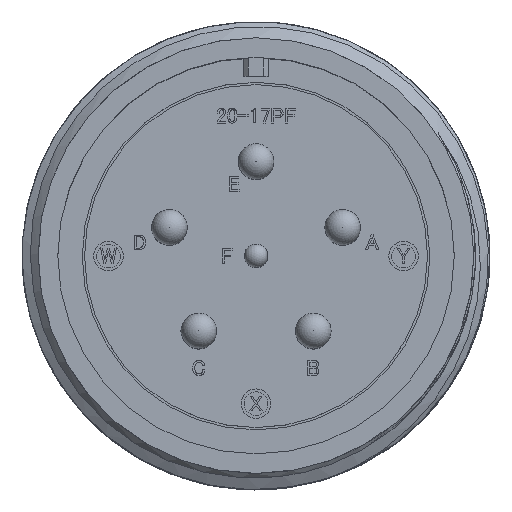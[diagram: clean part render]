
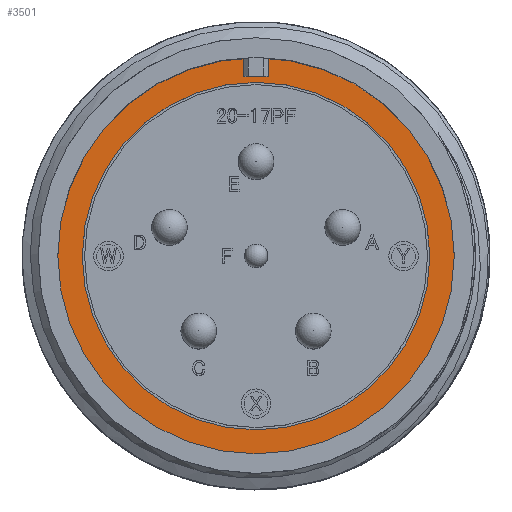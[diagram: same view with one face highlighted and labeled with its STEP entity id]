
A CAD part, top view. The second image highlights one B-rep face of the part: STEP entity #3501.
In plain terms, the highlighted planar face has unit normal (0, 0, 1).
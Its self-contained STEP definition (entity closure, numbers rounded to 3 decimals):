
#800 = VERTEX_POINT ( 'NONE', #18189 ) ;
#1625 = DIRECTION ( 'NONE',  ( 1., 0., 0. ) ) ;
#1786 = DIRECTION ( 'NONE',  ( 0., 0., 1. ) ) ;
#2285 = EDGE_LOOP ( 'NONE', ( #16158 ) ) ;
#3501 = ADVANCED_FACE ( 'NONE', ( #24933, #19535 ), #15216, .T. ) ;
#4701 = DIRECTION ( 'NONE',  ( 0., 0., 1. ) ) ;
#5604 = CARTESIAN_POINT ( 'NONE',  ( 0., 11.775, -19.18 ) ) ;
#6045 = AXIS2_PLACEMENT_3D ( 'NONE', #5604, #1786, #1625 ) ;
#8807 = DIRECTION ( 'NONE',  ( 0., 0., 1. ) ) ;
#8896 = DIRECTION ( 'NONE',  ( 1., 0., 0. ) ) ;
#9480 = EDGE_CURVE ( 'NONE', #800, #800, #22244, .T. ) ;
#13617 = AXIS2_PLACEMENT_3D ( 'NONE', #20299, #8807, #8896 ) ;
#14146 = EDGE_CURVE ( 'NONE', #20653, #20653, #18784, .T. ) ;
#15216 = PLANE ( 'NONE',  #6045 ) ;
#16158 = ORIENTED_EDGE ( 'NONE', *, *, #9480, .T. ) ;
#16170 = DIRECTION ( 'NONE',  ( 1., 0., 0. ) ) ;
#16777 = ORIENTED_EDGE ( 'NONE', *, *, #14146, .F. ) ;
#16887 = EDGE_LOOP ( 'NONE', ( #16777 ) ) ;
#17942 = CARTESIAN_POINT ( 'NONE',  ( 0., 0., -19.18 ) ) ;
#18189 = CARTESIAN_POINT ( 'NONE',  ( 13.435, 0., -19.18 ) ) ;
#18784 = CIRCLE ( 'NONE', #24638, 11.775 ) ;
#19535 = FACE_BOUND ( 'NONE', #16887, .T. ) ;
#20299 = CARTESIAN_POINT ( 'NONE',  ( 0., 0., -19.18 ) ) ;
#20653 = VERTEX_POINT ( 'NONE', #22148 ) ;
#22148 = CARTESIAN_POINT ( 'NONE',  ( 11.775, 0., -19.18 ) ) ;
#22244 = CIRCLE ( 'NONE', #13617, 13.435 ) ;
#24638 = AXIS2_PLACEMENT_3D ( 'NONE', #17942, #4701, #16170 ) ;
#24933 = FACE_OUTER_BOUND ( 'NONE', #2285, .T. ) ;
